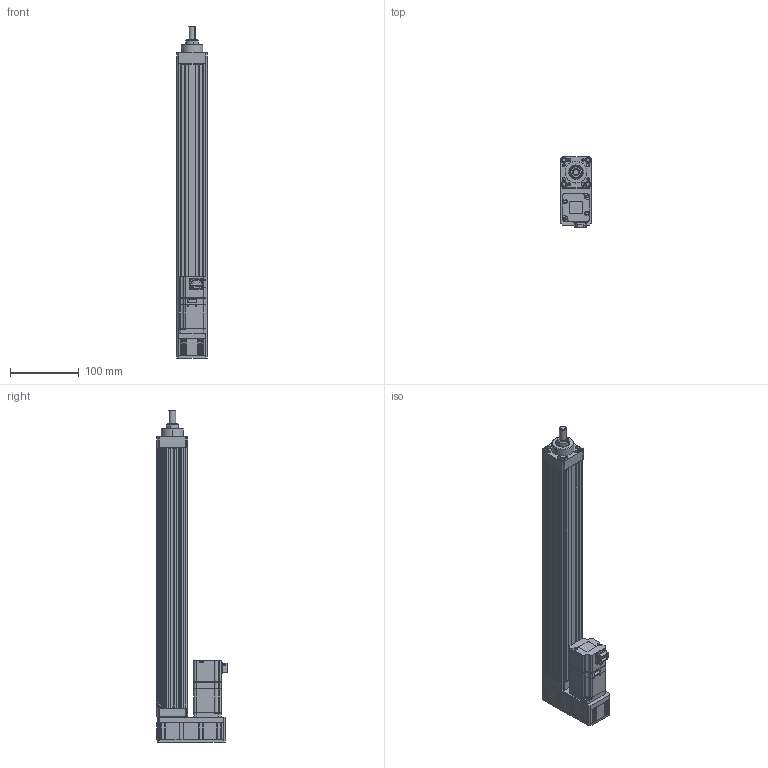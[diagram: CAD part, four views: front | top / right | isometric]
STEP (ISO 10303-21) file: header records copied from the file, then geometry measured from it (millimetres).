
FILE_DESCRIPTION (( 'STEP AP203' ), '1' );
FILE_NAME ('ANS045-P300-05(10)-W10-M.STEP', '2019-02-14T02:58:17', ( 'user' ), ( '' ), 'SwSTEP 2.0', 'SolidWorks 2013', '' );
FILE_SCHEMA (( 'CONFIG_CONTROL_DESIGN' ));
Length unit declared in the file: millimetre
Products named in the file (4): ANS045-P300-05(10)-W10-M; ANS045 P300 VER2; ANS045 ROD ST300 M; SGMJV_01A_A21
Assembly tree (3 placements, depth 2):
  ANS045-P300-05(10)-W10-M
    ANS045 P300 VER2
    ANS045 ROD ST300 M
    SGMJV_01A_A21
Bounding box: 45 x 102.3 x 483.5 mm (x, y, z)
Volume: 739408.3 mm3; surface area: 247417.3 mm2
Topology: 3 solids, 11 shells, 1060 faces, 2747 edges, 1750 vertices
Faces by surface type: plane 607, cylinder 355, cone 96, bspline 2
Entity records: 32395 total; most frequent: CARTESIAN_POINT 6241, ORIENTED_EDGE 5462, DIRECTION 5267, EDGE_CURVE 2731, LINE 1891, VECTOR 1891, VERTEX_POINT 1750, AXIS2_PLACEMENT_3D 1688
